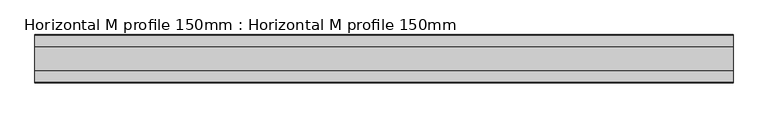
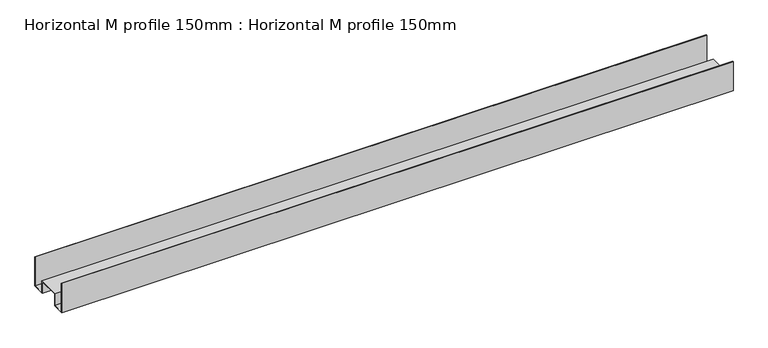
"""IFC4 building model written with IfcOpenShell, lengths in millimetres: proxy geometry, Horizontal M profile 150mm : Horizontal M profile 150mm."""

from ifc_helpers import new_model, si_unit, frame, origin, place, context, project, spatial, polyline, outline, extrude, source, transform, mapped, element, save


def horizontal_m_profile_150mm_horizontal_m_profile_150mm_2e45c9e0(model_context):
    return source(origin(), model_context, "Body", "SweptSolid", [
        extrude(outline(polyline([(-75.1472219, 0.0), (-75.1472219, 100.0), (-73.9472219, 100.0), (-73.9472219, 1.2), (-36.3472219, 1.2), (-36.3472219, 40.722552), (36.0527781, 40.722552), (36.0527781, 1.2), (73.6527781, 1.2), (73.6527781, 100.0), (74.8527781, 100.0), (74.8527781, 0.0), (34.8527781, 0.0), (34.8527781, 39.522552), (-35.1472219, 39.522552), (-35.1472219, 0.0), (-75.1472219, 0.0)])), frame((0.0, 0.0, 0.0), z_axis=(1.0, 0.0, 0.0), x_axis=(0.0, 1.0, 0.0)), (0.0, 0.0, 1.0), 2170.8683241),
    ])


if __name__ == "__main__":
    model = new_model("IFC4")
    model_context = context("Model", 3, world=origin())
    ifc_project = project(units=[si_unit("LENGTHUNIT", "METRE", prefix="MILLI")], contexts=[model_context])
    site = spatial("IfcSite", under=ifc_project)
    building = spatial("IfcBuilding", under=site)
    placement = place(None, origin())
    horizontal_m_profile_150mm_horizontal_m_profile_150mm_shape = horizontal_m_profile_150mm_horizontal_m_profile_150mm_2e45c9e0(model_context)
    element("IfcBuildingElementProxy", 1, Name="Horizontal M profile 150mm : Horizontal M profile 150mm", ObjectType="Horizontal M profile 150mm : Horizontal M profile 150mm", at=placement, inside=building, context=model_context, shape_type="MappedRepresentation", body=[
        mapped(horizontal_m_profile_150mm_horizontal_m_profile_150mm_shape, transform((0.0, 0.0, 0.0), x_axis=(1.0, 0.0, 0.0), y_axis=(0.0, 1.0, 0.0), z_axis=(0.0, 0.0, 1.0))),
    ])
    save(model, "model.ifc")
